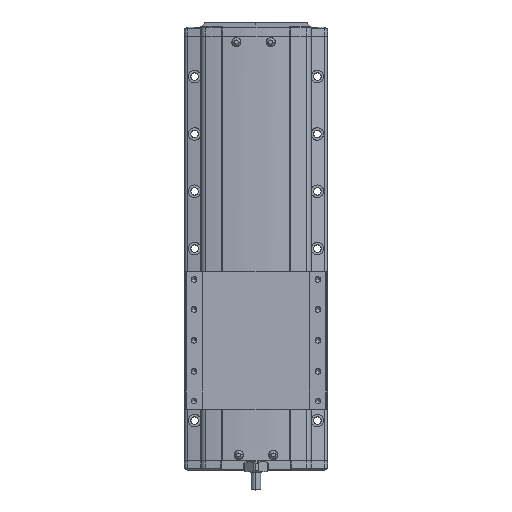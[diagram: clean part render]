
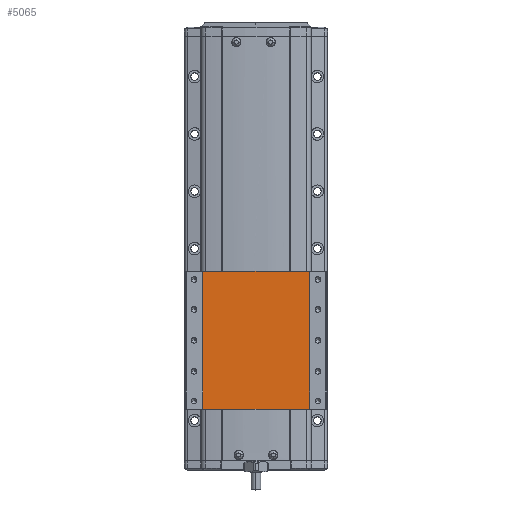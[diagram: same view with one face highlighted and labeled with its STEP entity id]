
A CAD part, top view. The second image highlights one B-rep face of the part: STEP entity #5065.
In plain terms, the highlighted planar face has unit normal (0, 0, 1).
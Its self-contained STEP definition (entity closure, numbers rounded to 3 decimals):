
#5065=ADVANCED_FACE('',(#10436),#10437,.F.);
#10436=FACE_OUTER_BOUND('',#17546,.T.);
#10437=PLANE('',#17547);
#17546=EDGE_LOOP('',(#32652,#32653,#32654,#32655));
#17547=AXIS2_PLACEMENT_3D('',#32656,#32657,#32658);
#32652=ORIENTED_EDGE('',*,*,#39306,.F.);
#32653=ORIENTED_EDGE('',*,*,#39014,.F.);
#32654=ORIENTED_EDGE('',*,*,#38829,.F.);
#32655=ORIENTED_EDGE('',*,*,#40617,.T.);
#32656=CARTESIAN_POINT('',(-300.,-7.778,36.5));
#32657=DIRECTION('',(0.,0.,-1.0));
#32658=DIRECTION('',(-1.0,0.,0.));
#38829=EDGE_CURVE('',#47802,#47804,#47805,.T.);
#39014=EDGE_CURVE('',#47804,#48065,#48067,.T.);
#39306=EDGE_CURVE('',#48065,#48478,#48479,.T.);
#40617=EDGE_CURVE('',#47802,#48478,#50206,.T.);
#47802=VERTEX_POINT('',#60562);
#47804=VERTEX_POINT('',#60564);
#47805=LINE('',#60565,#60566);
#48065=VERTEX_POINT('',#60920);
#48067=LINE('',#60922,#60923);
#48478=VERTEX_POINT('',#61523);
#48479=LINE('',#61524,#61525);
#50206=LINE('',#64112,#64113);
#60562=CARTESIAN_POINT('',(-253.624,-7.778,36.5));
#60564=CARTESIAN_POINT('',(-346.376,-7.778,36.5));
#60565=CARTESIAN_POINT('',(-253.624,-7.778,36.5));
#60566=VECTOR('',#70116,10.0);
#60920=CARTESIAN_POINT('',(-346.376,112.222,36.5));
#60922=CARTESIAN_POINT('',(-346.376,-7.778,36.5));
#60923=VECTOR('',#70353,10.0);
#61523=CARTESIAN_POINT('',(-253.624,112.222,36.5));
#61524=CARTESIAN_POINT('',(-253.624,112.222,36.5));
#61525=VECTOR('',#70711,10.0);
#64112=CARTESIAN_POINT('',(-253.624,-7.778,36.5));
#64113=VECTOR('',#72147,10.0);
#70116=DIRECTION('',(-1.0,0.,0.));
#70353=DIRECTION('',(0.,1.0,0.));
#70711=DIRECTION('',(1.0,0.,0.));
#72147=DIRECTION('',(0.,1.0,0.));
